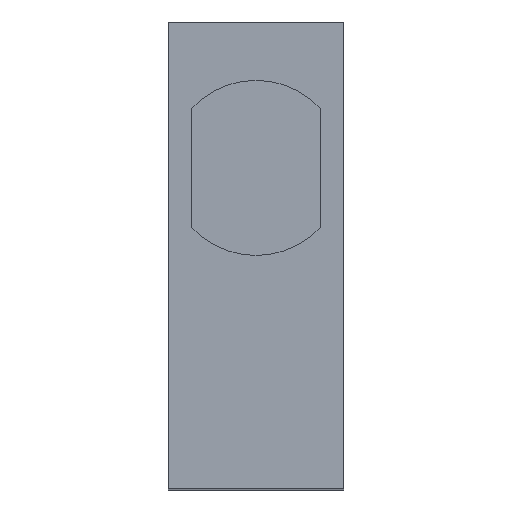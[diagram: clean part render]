
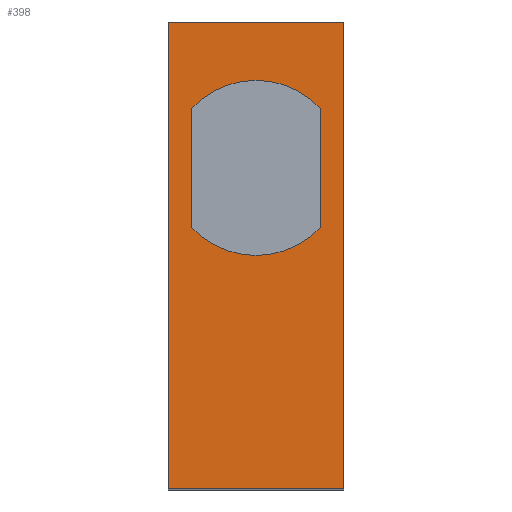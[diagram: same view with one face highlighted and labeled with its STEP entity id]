
A CAD part, top view. The second image highlights one B-rep face of the part: STEP entity #398.
In plain terms, the highlighted planar face has unit normal (0, 0, 1) as drawn and (-1, 0, 0) by its records, which use the part's own axes.
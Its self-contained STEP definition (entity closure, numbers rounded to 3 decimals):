
#67 = DIRECTION ( 'NONE',  ( 0., -1., 0. ) ) ;
#71 = DIRECTION ( 'NONE',  ( 0., -1., 0. ) ) ;
#72 = VECTOR ( 'NONE', #71, 1000. ) ;
#73 = CARTESIAN_POINT ( 'NONE',  ( 0., 2.5, -1.5 ) ) ;
#74 = LINE ( 'NONE', #73, #72 ) ;
#76 = CARTESIAN_POINT ( 'NONE',  ( 0., -5.5, -1.5 ) ) ;
#105 = VECTOR ( 'NONE', #67, 1000. ) ;
#106 = CARTESIAN_POINT ( 'NONE',  ( 0., 2.5, 1.5 ) ) ;
#107 = LINE ( 'NONE', #106, #105 ) ;
#173 = DIRECTION ( 'NONE',  ( 0., 0., -1. ) ) ;
#174 = LINE ( 'NONE', #176, #175 ) ;
#175 = VECTOR ( 'NONE', #173, 1000. ) ;
#176 = CARTESIAN_POINT ( 'NONE',  ( 0., -5.5, 1.5 ) ) ;
#177 = CARTESIAN_POINT ( 'NONE',  ( 0., -5.5, 1.5 ) ) ;
#381 = ORIENTED_EDGE ( 'NONE', *, *, #609, .F. ) ;
#385 = EDGE_CURVE ( 'NONE', #386, #406, #698, .T. ) ;
#386 = VERTEX_POINT ( 'NONE', #731 ) ;
#387 = ORIENTED_EDGE ( 'NONE', *, *, #388, .F. ) ;
#388 = EDGE_CURVE ( 'NONE', #402, #386, #699, .T. ) ;
#389 = EDGE_LOOP ( 'NONE', ( #390, #394, #622, #381 ) ) ;
#390 = ORIENTED_EDGE ( 'NONE', *, *, #391, .T. ) ;
#391 = EDGE_CURVE ( 'NONE', #392, #393, #732, .T. ) ;
#392 = VERTEX_POINT ( 'NONE', #735 ) ;
#393 = VERTEX_POINT ( 'NONE', #734 ) ;
#394 = ORIENTED_EDGE ( 'NONE', *, *, #621, .T. ) ;
#398 = ADVANCED_FACE ( 'NONE', ( #759, #758 ), #757, .F. ) ;
#399 = EDGE_LOOP ( 'NONE', ( #400, #403, #404, #407, #387 ) ) ;
#400 = ORIENTED_EDGE ( 'NONE', *, *, #401, .F. ) ;
#401 = EDGE_CURVE ( 'NONE', #494, #402, #752, .T. ) ;
#402 = VERTEX_POINT ( 'NONE', #748 ) ;
#403 = ORIENTED_EDGE ( 'NONE', *, *, #493, .F. ) ;
#404 = ORIENTED_EDGE ( 'NONE', *, *, #405, .F. ) ;
#405 = EDGE_CURVE ( 'NONE', #406, #491, #747, .T. ) ;
#406 = VERTEX_POINT ( 'NONE', #742 ) ;
#407 = ORIENTED_EDGE ( 'NONE', *, *, #385, .F. ) ;
#491 = VERTEX_POINT ( 'NONE', #864 ) ;
#493 = EDGE_CURVE ( 'NONE', #491, #494, #863, .T. ) ;
#494 = VERTEX_POINT ( 'NONE', #858 ) ;
#609 = EDGE_CURVE ( 'NONE', #392, #624, #107, .T. ) ;
#620 = VERTEX_POINT ( 'NONE', #76 ) ;
#621 = EDGE_CURVE ( 'NONE', #393, #620, #74, .T. ) ;
#622 = ORIENTED_EDGE ( 'NONE', *, *, #623, .F. ) ;
#623 = EDGE_CURVE ( 'NONE', #624, #620, #174, .T. ) ;
#624 = VERTEX_POINT ( 'NONE', #177 ) ;
#694 = CARTESIAN_POINT ( 'NONE',  ( 0., 2.5, 1.5 ) ) ;
#695 = DIRECTION ( 'NONE',  ( 0., -1., 0. ) ) ;
#696 = VECTOR ( 'NONE', #695, 1000. ) ;
#697 = CARTESIAN_POINT ( 'NONE',  ( 0., -1.02, -1.1 ) ) ;
#698 = LINE ( 'NONE', #697, #696 ) ;
#699 = CIRCLE ( 'NONE', #722, 1.5 ) ;
#719 = DIRECTION ( 'NONE',  ( 0., -1., 0. ) ) ;
#722 = AXIS2_PLACEMENT_3D ( 'NONE', #724, #729, #719 ) ;
#724 = CARTESIAN_POINT ( 'NONE',  ( 0., 0., 0. ) ) ;
#726 = DIRECTION ( 'NONE',  ( 0., 0., -1. ) ) ;
#729 = DIRECTION ( 'NONE',  ( -1., 0., 0. ) ) ;
#730 = VECTOR ( 'NONE', #726, 1000. ) ;
#731 = CARTESIAN_POINT ( 'NONE',  ( 0., 1.02, -1.1 ) ) ;
#732 = LINE ( 'NONE', #694, #730 ) ;
#734 = CARTESIAN_POINT ( 'NONE',  ( 0., 2.5, -1.5 ) ) ;
#735 = CARTESIAN_POINT ( 'NONE',  ( 0., 2.5, 1.5 ) ) ;
#742 = CARTESIAN_POINT ( 'NONE',  ( 0., -1.02, -1.1 ) ) ;
#743 = DIRECTION ( 'NONE',  ( 0., -1., 0. ) ) ;
#744 = DIRECTION ( 'NONE',  ( -1., 0., 0. ) ) ;
#745 = CARTESIAN_POINT ( 'NONE',  ( 0., 0., 0. ) ) ;
#746 = AXIS2_PLACEMENT_3D ( 'NONE', #745, #744, #743 ) ;
#747 = CIRCLE ( 'NONE', #746, 1.5 ) ;
#748 = CARTESIAN_POINT ( 'NONE',  ( 0., 1.02, 1.1 ) ) ;
#749 = DIRECTION ( 'NONE',  ( 0., 1., 0. ) ) ;
#750 = VECTOR ( 'NONE', #749, 1000. ) ;
#751 = CARTESIAN_POINT ( 'NONE',  ( 0., -1.02, 1.1 ) ) ;
#752 = LINE ( 'NONE', #751, #750 ) ;
#753 = DIRECTION ( 'NONE',  ( 0., 1., 0. ) ) ;
#754 = DIRECTION ( 'NONE',  ( 1., 0., 0. ) ) ;
#755 = CARTESIAN_POINT ( 'NONE',  ( 0., 2.5, 1.5 ) ) ;
#756 = AXIS2_PLACEMENT_3D ( 'NONE', #755, #754, #753 ) ;
#757 = PLANE ( 'NONE',  #756 ) ;
#758 = FACE_OUTER_BOUND ( 'NONE', #389, .T. ) ;
#759 = FACE_BOUND ( 'NONE', #399, .T. ) ;
#858 = CARTESIAN_POINT ( 'NONE',  ( 0., -1.02, 1.1 ) ) ;
#859 = DIRECTION ( 'NONE',  ( 0., -1., 0. ) ) ;
#860 = DIRECTION ( 'NONE',  ( -1., 0., 0. ) ) ;
#861 = CARTESIAN_POINT ( 'NONE',  ( 0., 0., 0. ) ) ;
#862 = AXIS2_PLACEMENT_3D ( 'NONE', #861, #860, #859 ) ;
#863 = CIRCLE ( 'NONE', #862, 1.5 ) ;
#864 = CARTESIAN_POINT ( 'NONE',  ( 0., -1.5, 0. ) ) ;
